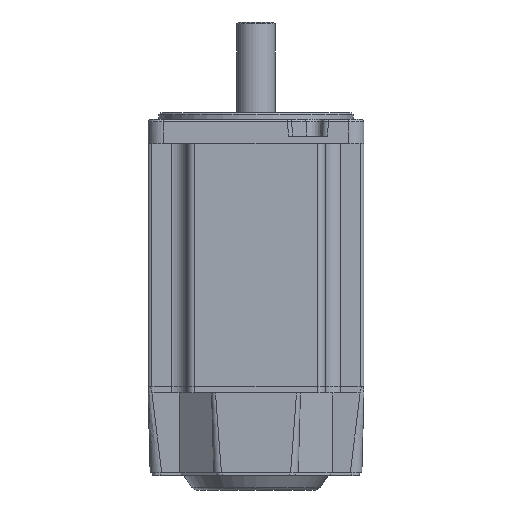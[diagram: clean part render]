
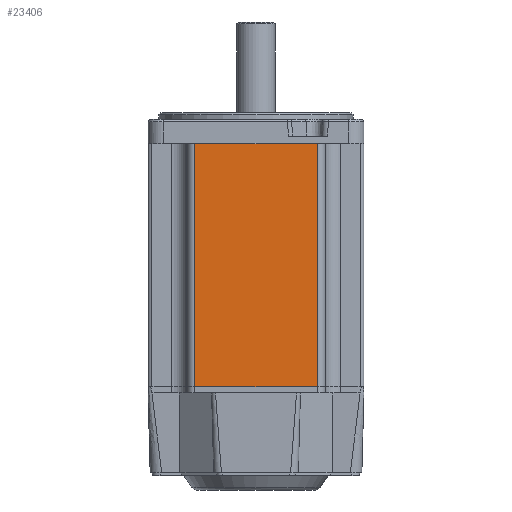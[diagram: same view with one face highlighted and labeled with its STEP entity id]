
A CAD part, front view. The second image highlights one B-rep face of the part: STEP entity #23406.
In plain terms, the highlighted planar face has unit normal (0, -1, 0).
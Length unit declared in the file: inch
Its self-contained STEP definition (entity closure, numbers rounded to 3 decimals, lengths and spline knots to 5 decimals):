
#21517=CARTESIAN_POINT('',(0.995,-1.75,-3.94));
#21518=VERTEX_POINT('',#21517);
#21525=CARTESIAN_POINT('',(-0.995,-1.75,-3.94));
#21526=VERTEX_POINT('',#21525);
#21527=CARTESIAN_POINT('',(-0.995,-1.75,-3.94));
#21528=DIRECTION('',(1.0,0.0,0.0));
#21529=VECTOR('',#21528,1.99);
#21530=LINE('',#21527,#21529);
#21531=EDGE_CURVE('',#21526,#21518,#21530,.T.);
#23364=CARTESIAN_POINT('',(-0.995,-1.75,0.0));
#23365=VERTEX_POINT('',#23364);
#23366=CARTESIAN_POINT('',(-0.995,-1.75,-3.94));
#23367=DIRECTION('',(0.0,0.0,1.0));
#23368=VECTOR('',#23367,3.94);
#23369=LINE('',#23366,#23368);
#23370=EDGE_CURVE('',#21526,#23365,#23369,.T.);
#23383=CARTESIAN_POINT('',(1.5,-1.75,0.0));
#23384=DIRECTION('',(0.0,-1.0,0.0));
#23385=DIRECTION('',(0.0,0.0,-1.0));
#23386=AXIS2_PLACEMENT_3D('',#23383,#23384,#23385);
#23387=PLANE('',#23386);
#23388=ORIENTED_EDGE('',*,*,#21531,.T.);
#23389=CARTESIAN_POINT('',(0.995,-1.75,0.0));
#23390=VERTEX_POINT('',#23389);
#23391=CARTESIAN_POINT('',(0.995,-1.75,0.0));
#23392=DIRECTION('',(0.0,0.0,-1.0));
#23393=VECTOR('',#23392,3.94);
#23394=LINE('',#23391,#23393);
#23395=EDGE_CURVE('',#23390,#21518,#23394,.T.);
#23396=ORIENTED_EDGE('',*,*,#23395,.F.);
#23397=CARTESIAN_POINT('',(-0.995,-1.75,0.0));
#23398=DIRECTION('',(1.0,0.0,0.0));
#23399=VECTOR('',#23398,1.99);
#23400=LINE('',#23397,#23399);
#23401=EDGE_CURVE('',#23365,#23390,#23400,.T.);
#23402=ORIENTED_EDGE('',*,*,#23401,.F.);
#23403=ORIENTED_EDGE('',*,*,#23370,.F.);
#23404=EDGE_LOOP('',(#23388,#23396,#23402,#23403));
#23405=FACE_OUTER_BOUND('',#23404,.T.);
#23406=ADVANCED_FACE('',(#23405),#23387,.T.);
